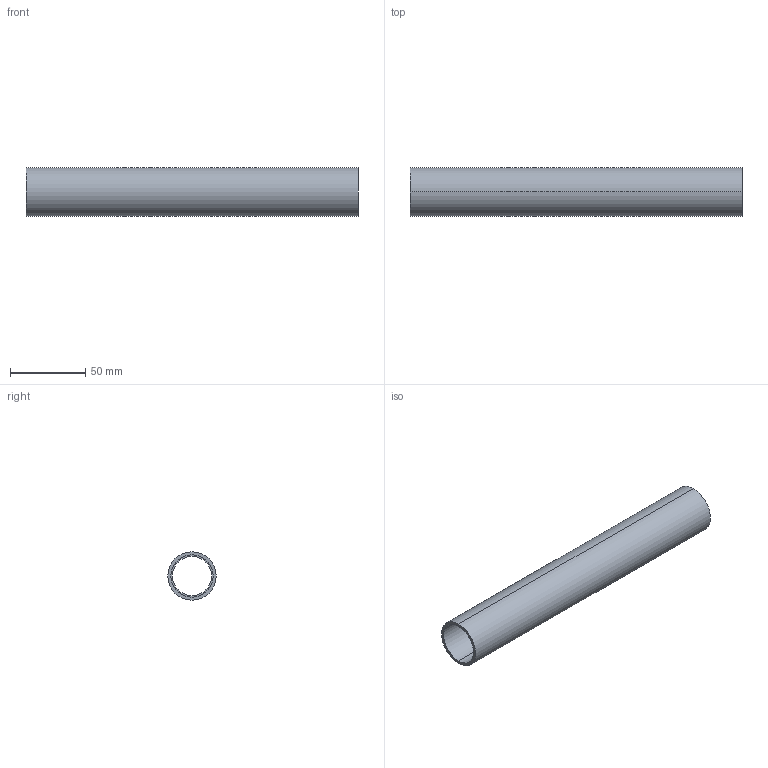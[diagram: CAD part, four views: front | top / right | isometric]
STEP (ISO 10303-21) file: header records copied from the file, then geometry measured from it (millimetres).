
FILE_DESCRIPTION (( 'STEP AP203' ), '1' );
FILE_NAME ('084.801.044.STEP', '2013-01-31T15:24:29', ( 'Alusic' ), ( 'Alusic' ), 'SwSTEP 2.0', 'SolidWorks 2011', '' );
FILE_SCHEMA (( 'CONFIG_CONTROL_DESIGN' ));
Length unit declared in the file: millimetre
Products named in the file (1): 084.801.044
Bounding box: 220 x 32 x 32 mm (x, y, z)
Volume: 54150.1 mm3; surface area: 41076.3 mm2
Topology: 1 solids, 1 shells, 12 faces, 24 edges, 16 vertices
Faces by surface type: cylinder 8, plane 4
Entity records: 405 total; most frequent: DIRECTION 66, CARTESIAN_POINT 53, ORIENTED_EDGE 48, AXIS2_PLACEMENT_3D 29, EDGE_CURVE 24, CIRCLE 16, EDGE_LOOP 16, VERTEX_POINT 16
